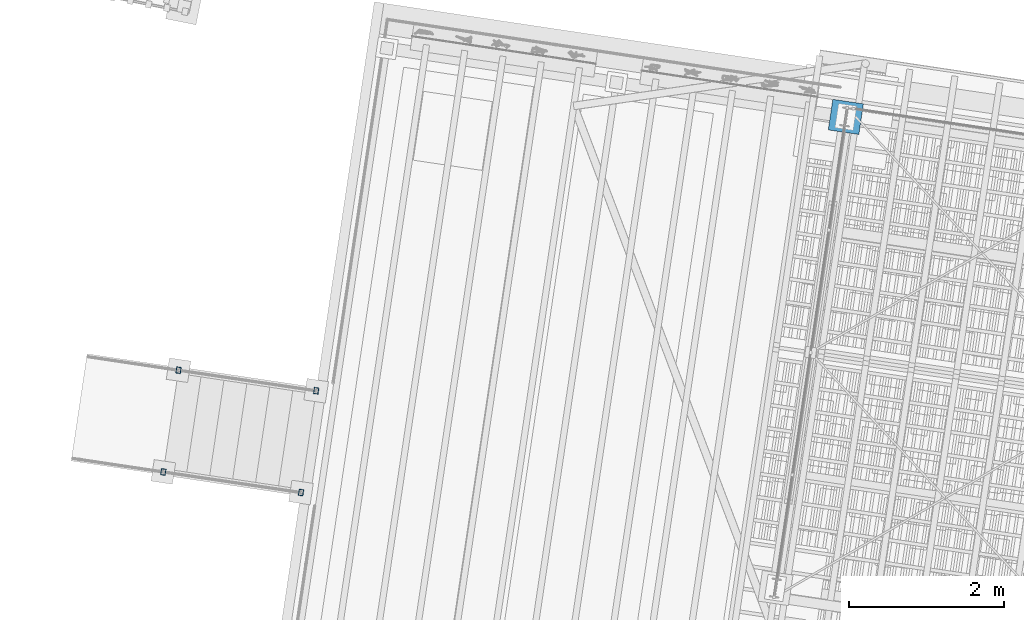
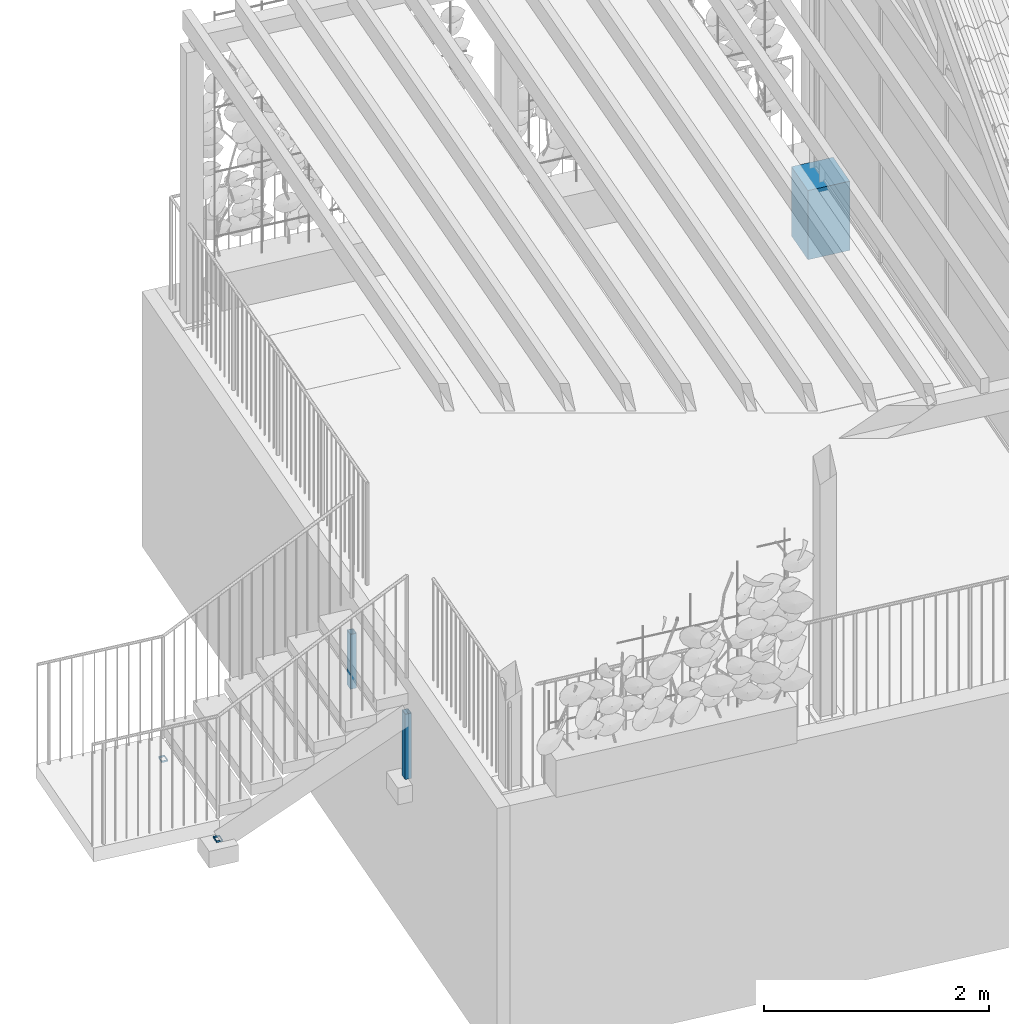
# One storey, part 5 of 128: 5 columns, 1 element without a shape of its own.
"""IFC4 building model written with IfcOpenShell, lengths in metres."""

from ifc_helpers import new_model, si_unit, direction, frame, origin_with_axes, place, context, subcontext, project, spatial, polyline, hollow_rectangle, outline, extrude, material, material_profile, profile_set, profile_usage, type_object, element, aggregate, save


model = new_model("IFC4")

# Units and contexts
model_context = context("Model", 3, precision=1e-05, world=origin_with_axes(), true_north=direction((0.0, 1.0)))
body_context = subcontext(model_context, "Body", "Model", "MODEL_VIEW")
ifc_project = project(units=[si_unit("VOLUMEUNIT", "CUBIC_METRE"), si_unit("LENGTHUNIT", "METRE"), si_unit("AREAUNIT", "SQUARE_METRE")], contexts=[model_context])

# Site, building, storey
site_placement = place(None, origin_with_axes())
site = spatial("IfcSite", under=ifc_project, at=site_placement, Name="Lares · Rua das Mercês · artigo 4771")
building_placement = place(site_placement, frame((15.0, 9.7, 13.9), z_axis=(0.0, 0.0, 1.0), x_axis=(0.989015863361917, -0.147809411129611, 0.0)))
building = spatial("IfcBuilding", under=site, at=building_placement, Name="Casa Sobreposta")
storey_placement = place(building_placement, origin_with_axes())
storey = spatial("IfcBuildingStorey", under=building, at=storey_placement, Name="00 · Habitação e estacionamento", Elevation=13.9)

# Stair, columns
stair_placement = place(storey_placement, origin_with_axes())
stair = element("IfcStair", 1, at=stair_placement, inside=storey, Name="Jardim · escada pela fachada poente", PredefinedType="STRAIGHT_RUN_STAIR")
ifc_material_1 = material(Name="Aço pintado / Stahl lackiert", Category="steel")
ifc_material_profile = material_profile(ifc_material_1, hollow_rectangle(XDim=0.06, YDim=0.08, WallThickness=0.004))
ifc_profile_set = profile_set([ifc_material_profile], Name="RHS80x60x4")
ifc_profile_usage_1 = profile_usage(ifc_profile_set)
column_type = type_object("IfcColumnType", Name="RHS80x60x4 / steel", PredefinedType="NOTDEFINED", material=ifc_profile_set)
column_1_placement = place(stair_placement, frame((-6.25, 0.435, -1.11767746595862), z_axis=(0.0, 0.0, 1.0), x_axis=(1.0, 0.0, 0.0)))
column_1 = element("IfcColumn", 2, at=column_1_placement, type_object=column_type, material=ifc_profile_usage_1, Name="Jardim · montante", context=body_context, shape_type="SweptSolid", body=[
    extrude(hollow_rectangle(XDim=0.06, YDim=0.08, WallThickness=0.004), origin_with_axes(), (0.0, 0.0, 1.0), 0.70624889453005),
])
ifc_profile_usage_2 = profile_usage(ifc_profile_set)
column_2_placement = place(stair_placement, frame((-8.05, 0.435, -1.34), z_axis=(0.0, 0.0, 1.0), x_axis=(1.0, 0.0, 0.0)))
column_2 = element("IfcColumn", 3, at=column_2_placement, type_object=column_type, material=ifc_profile_usage_2, Name="Jardim · montante", context=body_context, shape_type="SweptSolid", body=[
    extrude(hollow_rectangle(XDim=0.06, YDim=0.08, WallThickness=0.004), origin_with_axes(), (0.0, 0.0, 1.0), 0.02),
])
ifc_profile_usage_3 = profile_usage(ifc_profile_set)
column_3_placement = place(stair_placement, frame((-6.25, 1.765, -1.00553574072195), z_axis=(0.0, 0.0, 1.0), x_axis=(1.0, 0.0, 0.0)))
column_3 = element("IfcColumn", 4, at=column_3_placement, type_object=column_type, material=ifc_profile_usage_3, Name="Jardim · montante", context=body_context, shape_type="SweptSolid", body=[
    extrude(hollow_rectangle(XDim=0.06, YDim=0.08, WallThickness=0.004), origin_with_axes(), (0.0, 0.0, 1.0), 0.594107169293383),
])
ifc_profile_usage_4 = profile_usage(ifc_profile_set)
column_4_placement = place(stair_placement, frame((-8.05, 1.765, -1.34), z_axis=(0.0, 0.0, 1.0), x_axis=(1.0, 0.0, 0.0)))
column_4 = element("IfcColumn", 5, at=column_4_placement, type_object=column_type, material=ifc_profile_usage_4, Name="Jardim · montante", context=body_context, shape_type="SweptSolid", body=[
    extrude(hollow_rectangle(XDim=0.06, YDim=0.08, WallThickness=0.004), origin_with_axes(), (0.0, 0.0, 1.0), 0.02),
])
aggregate(stair, [column_1, column_2, column_3, column_4])

# Column
ifc_material_2 = material(Name="Betão armado / Stahlbeton", Category="concrete")
column_5_placement = place(storey_placement, frame((0.0, 0.0, -0.75), z_axis=(0.0, 0.0, 1.0), x_axis=(1.0, 0.0, 0.0)))
element("IfcColumn", 6, at=column_5_placement, inside=storey, material=ifc_material_2, Name="Casa térrea · pedestal", context=body_context, shape_type="SweptSolid", body=[
    extrude(outline(polyline([(0.2, 6.08), (0.2, 6.48), (-0.2, 6.48), (-0.2, 6.08), (0.2, 6.08)])), origin_with_axes(), (0.0, 0.0, 1.0), 0.75),
])

save(model, "model.ifc")
